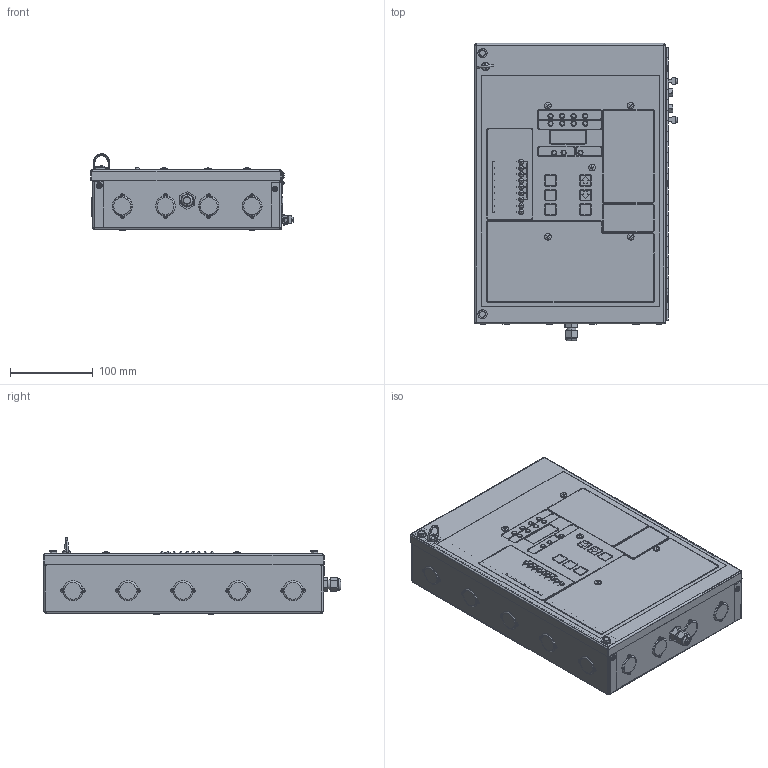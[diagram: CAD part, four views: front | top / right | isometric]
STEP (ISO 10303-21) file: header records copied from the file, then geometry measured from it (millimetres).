
FILE_DESCRIPTION (( 'STEP AP214' ), '1' );
FILE_NAME ('MC-4001.STEP', '2016-07-13T19:09:26', ( 'BMC' ), ( 'Bard Manufacturing Co., Inc.' ), 'SwSTEP 2.0', 'SolidWorks 2016', '' );
FILE_SCHEMA (( 'AUTOMOTIVE_DESIGN' ));
Length unit declared in the file: inch
Products named in the file (20): HINGE ROD; 188 HOLE HALF; 131 HOLE HALF; 1012-150; 1012-086; 8611-099; 1012-065, panhead screw; 7961-636; 1012-149; 152-625; 8612-022; 03-001-001; 7961-584; MC-4001; 1012-201; 8611-006; 1171-022, turn fastener; 1171-024, retainer clip; 1171-023, receptacle; 1012-121
Assembly tree (46 placements, depth 2):
  MC-4001
    03-001-001
    8612-022
    152-625
    1012-149  x11
    7961-636
    1012-065, panhead screw  x10
    8611-099
    1012-086  x2
    1012-150  x5
    131 HOLE HALF
    188 HOLE HALF
    HINGE ROD
    1012-121  x2
    1171-023, receptacle
    1171-024, retainer clip
    1171-022, turn fastener
    8611-006  x2
    1012-201  x2
    7961-584
Bounding box: 245.14 x 360.16 x 92.75 mm (x, y, z)
Volume: 286195.6 mm3; surface area: 677166.7 mm2
Topology: 44 solids, 54 shells, 3198 faces, 8009 edges, 5003 vertices
Faces by surface type: plane 1255, torus 744, cylinder 737, cone 384, bspline 78
Full cylindrical faces by diameter (mm): 9.525 x1
Entity records: 88138 total; most frequent: CARTESIAN_POINT 20782, DIRECTION 14337, ORIENTED_EDGE 12550, EDGE_CURVE 6290, AXIS2_PLACEMENT_3D 5732, VERTEX_POINT 3943, CIRCLE 3257, LINE 2873
